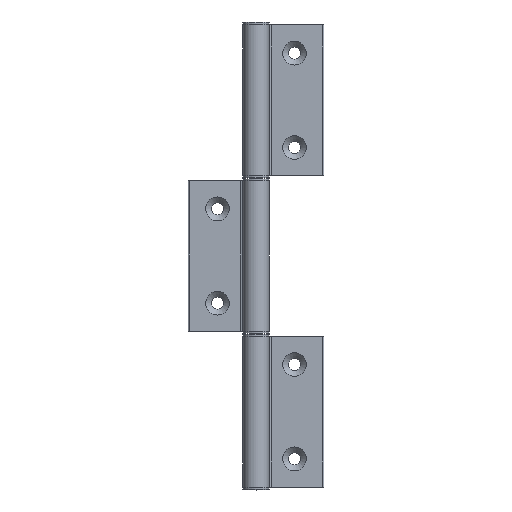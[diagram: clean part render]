
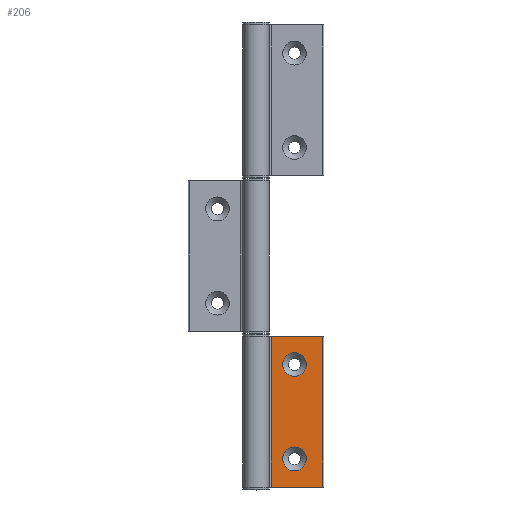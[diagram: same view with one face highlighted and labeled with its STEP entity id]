
A CAD part, top view. The second image highlights one B-rep face of the part: STEP entity #206.
In plain terms, the highlighted planar face has unit normal (0, 0, 1).
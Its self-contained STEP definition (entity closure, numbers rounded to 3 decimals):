
#206 = ADVANCED_FACE( '', ( #295, #296, #297 ), #298, .F. );
#295 = FACE_BOUND( '', #516, .T. );
#296 = FACE_BOUND( '', #517, .T. );
#297 = FACE_OUTER_BOUND( '', #518, .T. );
#298 = PLANE( '', #519 );
#516 = EDGE_LOOP( '', ( #736 ) );
#517 = EDGE_LOOP( '', ( #737 ) );
#518 = EDGE_LOOP( '', ( #738, #739, #740, #741 ) );
#519 = AXIS2_PLACEMENT_3D( '', #742, #743, #744 );
#736 = ORIENTED_EDGE( '', *, *, #1379, .F. );
#737 = ORIENTED_EDGE( '', *, *, #1380, .F. );
#738 = ORIENTED_EDGE( '', *, *, #1381, .T. );
#739 = ORIENTED_EDGE( '', *, *, #1382, .F. );
#740 = ORIENTED_EDGE( '', *, *, #1383, .F. );
#741 = ORIENTED_EDGE( '', *, *, #1384, .T. );
#742 = CARTESIAN_POINT( '', ( 8., 80., -3.5 ) );
#743 = DIRECTION( '', ( 0., 0., -1. ) );
#744 = DIRECTION( '', ( -1., 0., 0. ) );
#1379 = EDGE_CURVE( '', #1570, #1570, #1571, .T. );
#1380 = EDGE_CURVE( '', #1572, #1572, #1573, .T. );
#1381 = EDGE_CURVE( '', #1574, #1575, #1576, .T. );
#1382 = EDGE_CURVE( '', #1577, #1575, #1578, .T. );
#1383 = EDGE_CURVE( '', #1579, #1577, #1580, .T. );
#1384 = EDGE_CURVE( '', #1579, #1574, #1581, .T. );
#1570 = VERTEX_POINT( '', #1901 );
#1571 = CIRCLE( '', #1902, 6.3 );
#1572 = VERTEX_POINT( '', #1903 );
#1573 = CIRCLE( '', #1904, 6.3 );
#1574 = VERTEX_POINT( '', #1905 );
#1575 = VERTEX_POINT( '', #1906 );
#1576 = LINE( '', #1907, #1908 );
#1577 = VERTEX_POINT( '', #1909 );
#1578 = LINE( '', #1910, #1911 );
#1579 = VERTEX_POINT( '', #1912 );
#1580 = LINE( '', #1913, #1914 );
#1581 = LINE( '', #1915, #1916 );
#1901 = CARTESIAN_POINT( '', ( 26.7, 15., -3.5 ) );
#1902 = AXIS2_PLACEMENT_3D( '', #2325, #2326, #2327 );
#1903 = CARTESIAN_POINT( '', ( 26.7, 65., -3.5 ) );
#1904 = AXIS2_PLACEMENT_3D( '', #2328, #2329, #2330 );
#1905 = CARTESIAN_POINT( '', ( 8., 0., -3.5 ) );
#1906 = CARTESIAN_POINT( '', ( 35.5, 0., -3.5 ) );
#1907 = CARTESIAN_POINT( '', ( 8., 0., -3.5 ) );
#1908 = VECTOR( '', #2331, 1000. );
#1909 = CARTESIAN_POINT( '', ( 35.5, 80., -3.5 ) );
#1910 = CARTESIAN_POINT( '', ( 35.5, 80., -3.5 ) );
#1911 = VECTOR( '', #2332, 1000. );
#1912 = CARTESIAN_POINT( '', ( 8., 80., -3.5 ) );
#1913 = CARTESIAN_POINT( '', ( 8., 80., -3.5 ) );
#1914 = VECTOR( '', #2333, 1000. );
#1915 = CARTESIAN_POINT( '', ( 8., 80., -3.5 ) );
#1916 = VECTOR( '', #2334, 1000. );
#2325 = CARTESIAN_POINT( '', ( 20.4, 15., -3.5 ) );
#2326 = DIRECTION( '', ( 0., 0., 1. ) );
#2327 = DIRECTION( '', ( 1., 0., 0. ) );
#2328 = CARTESIAN_POINT( '', ( 20.4, 65., -3.5 ) );
#2329 = DIRECTION( '', ( 0., 0., 1. ) );
#2330 = DIRECTION( '', ( 1., 0., 0. ) );
#2331 = DIRECTION( '', ( 1., 0., 0. ) );
#2332 = DIRECTION( '', ( 0., -1., 0. ) );
#2333 = DIRECTION( '', ( 1., 0., 0. ) );
#2334 = DIRECTION( '', ( 0., -1., 0. ) );
